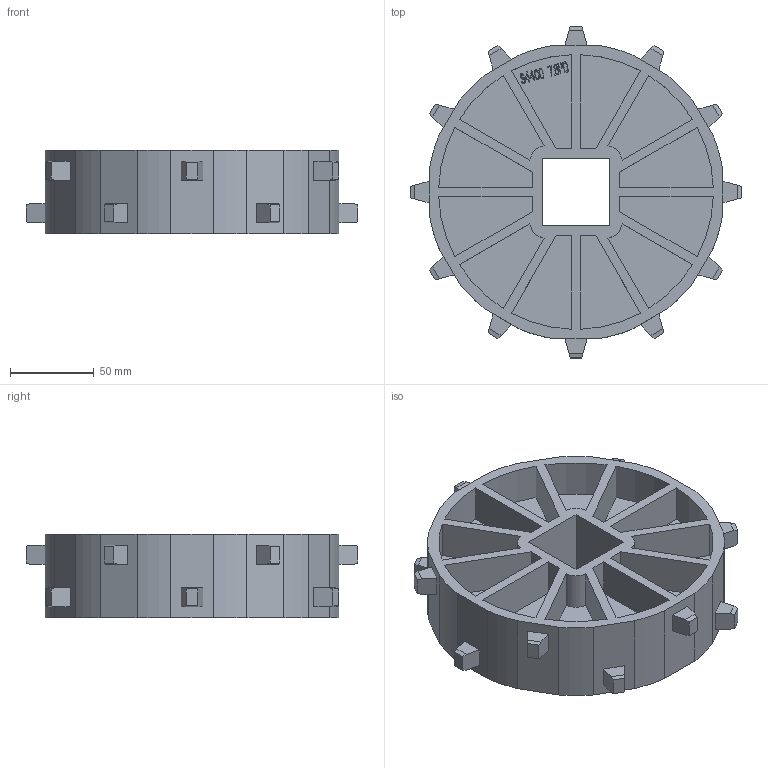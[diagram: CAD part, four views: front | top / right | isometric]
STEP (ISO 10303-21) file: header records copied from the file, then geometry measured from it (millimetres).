
FILE_DESCRIPTION((''),'2;1');
FILE_NAME('S4400_SPROCKET_78X15_40_SQ','2015-04-24T',('jevans'),('INTRALOX'),'PRO/ENGINEER BY PARAMETRIC TECHNOLOGY CORPORATION, 2009460','PRO/ENGINEER BY PARAMETRIC TECHNOLOGY CORPORATION, 2009460','');
FILE_SCHEMA(('CONFIG_CONTROL_DESIGN'));
Length unit declared in the file: inch
Products named in the file (1): S4400_SPROCKET_78X15_40_SQ
Bounding box: 198 x 198 x 49.53 mm (x, y, z)
Volume: 466620.4 mm3; surface area: 170058.8 mm2
Topology: 1 solids, 1 shells, 785 faces, 2139 edges, 1426 vertices
Faces by surface type: plane 637, cylinder 148
Entity records: 24593 total; most frequent: CARTESIAN_POINT 4350, ORIENTED_EDGE 4278, DIRECTION 4005, EDGE_CURVE 2139, VECTOR 1843, LINE 1843, VERTEX_POINT 1426, AXIS2_PLACEMENT_3D 1081
